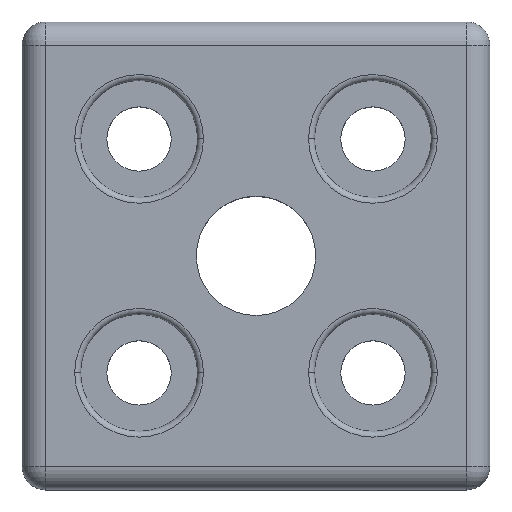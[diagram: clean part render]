
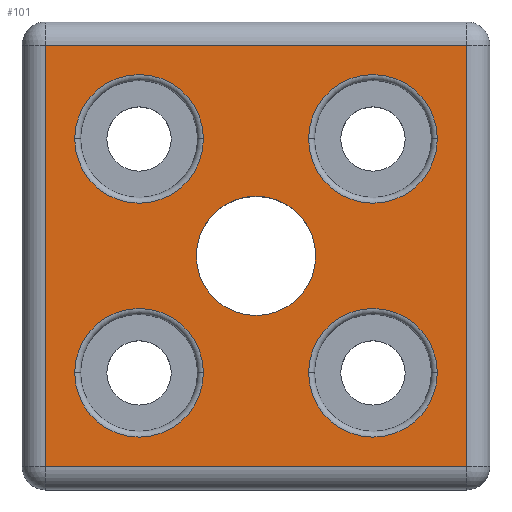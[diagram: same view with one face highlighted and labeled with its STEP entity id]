
A CAD part, top view. The second image highlights one B-rep face of the part: STEP entity #101.
In plain terms, the highlighted planar face has unit normal (0, 0, 1).
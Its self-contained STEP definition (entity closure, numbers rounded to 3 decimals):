
#101=ADVANCED_FACE('NONE',(#323,#324,#325,#326,#327,#328),#329,.T.);
#323=FACE_OUTER_BOUND('',#677,.T.);
#324=FACE_BOUND('',#678,.T.);
#325=FACE_BOUND('',#679,.T.);
#326=FACE_BOUND('',#680,.T.);
#327=FACE_BOUND('',#681,.T.);
#328=FACE_BOUND('',#682,.T.);
#329=PLANE('',#683);
#677=EDGE_LOOP('',(#1306,#1307,#1308,#1309));
#678=EDGE_LOOP('',(#1310,#1311));
#679=EDGE_LOOP('',(#1312,#1313));
#680=EDGE_LOOP('',(#1314,#1315));
#681=EDGE_LOOP('',(#1316,#1317));
#682=EDGE_LOOP('',(#1318,#1319));
#683=AXIS2_PLACEMENT_3D('',#1320,#1321,#1322);
#1306=ORIENTED_EDGE('',*,*,#2361,.T.);
#1307=ORIENTED_EDGE('',*,*,#2362,.T.);
#1308=ORIENTED_EDGE('',*,*,#2363,.T.);
#1309=ORIENTED_EDGE('',*,*,#2364,.T.);
#1310=ORIENTED_EDGE('',*,*,#2365,.F.);
#1311=ORIENTED_EDGE('',*,*,#2216,.F.);
#1312=ORIENTED_EDGE('',*,*,#2366,.T.);
#1313=ORIENTED_EDGE('',*,*,#2258,.T.);
#1314=ORIENTED_EDGE('',*,*,#2367,.T.);
#1315=ORIENTED_EDGE('',*,*,#2254,.T.);
#1316=ORIENTED_EDGE('',*,*,#2368,.T.);
#1317=ORIENTED_EDGE('',*,*,#2250,.T.);
#1318=ORIENTED_EDGE('',*,*,#2369,.T.);
#1319=ORIENTED_EDGE('',*,*,#2246,.T.);
#1320=CARTESIAN_POINT('',(-20.0,20.0,12.0));
#1321=DIRECTION('',(0.0,0.0,1.0));
#1322=DIRECTION('',(1.0,0.0,0.0));
#2216=EDGE_CURVE('NONE',#2635,#2637,#2638,.T.);
#2246=EDGE_CURVE('NONE',#2692,#2693,#2694,.T.);
#2250=EDGE_CURVE('NONE',#2700,#2701,#2702,.T.);
#2254=EDGE_CURVE('NONE',#2708,#2709,#2710,.T.);
#2258=EDGE_CURVE('NONE',#2716,#2717,#2718,.T.);
#2361=EDGE_CURVE('NONE',#2891,#2892,#2893,.T.);
#2362=EDGE_CURVE('NONE',#2892,#2894,#2895,.T.);
#2363=EDGE_CURVE('NONE',#2894,#2896,#2897,.T.);
#2364=EDGE_CURVE('NONE',#2896,#2891,#2898,.T.);
#2365=EDGE_CURVE('NONE',#2637,#2635,#2899,.T.);
#2366=EDGE_CURVE('NONE',#2717,#2716,#2900,.T.);
#2367=EDGE_CURVE('NONE',#2709,#2708,#2901,.T.);
#2368=EDGE_CURVE('NONE',#2701,#2700,#2902,.T.);
#2369=EDGE_CURVE('NONE',#2693,#2692,#2903,.T.);
#2635=VERTEX_POINT('NONE',#3249);
#2637=VERTEX_POINT('NONE',#3252);
#2638=CIRCLE('',#3253,5.1);
#2692=VERTEX_POINT('NONE',#3316);
#2693=VERTEX_POINT('NONE',#3317);
#2694=CIRCLE('',#3318,5.5);
#2700=VERTEX_POINT('NONE',#3324);
#2701=VERTEX_POINT('NONE',#3325);
#2702=CIRCLE('',#3326,5.5);
#2708=VERTEX_POINT('NONE',#3332);
#2709=VERTEX_POINT('NONE',#3333);
#2710=CIRCLE('',#3334,5.5);
#2716=VERTEX_POINT('NONE',#3340);
#2717=VERTEX_POINT('NONE',#3341);
#2718=CIRCLE('',#3342,5.5);
#2891=VERTEX_POINT('NONE',#3546);
#2892=VERTEX_POINT('NONE',#3547);
#2893=LINE('',#3548,#3549);
#2894=VERTEX_POINT('NONE',#3550);
#2895=LINE('',#3551,#3552);
#2896=VERTEX_POINT('NONE',#3553);
#2897=LINE('',#3554,#3555);
#2898=LINE('',#3556,#3557);
#2899=CIRCLE('',#3558,5.1);
#2900=CIRCLE('',#3559,5.5);
#2901=CIRCLE('',#3560,5.5);
#2902=CIRCLE('',#3561,5.5);
#2903=CIRCLE('',#3562,5.5);
#3249=CARTESIAN_POINT('',(-5.1,0.,12.0));
#3252=CARTESIAN_POINT('',(5.1,0.0,12.0));
#3253=AXIS2_PLACEMENT_3D('',#3950,#3951,#3952);
#3316=CARTESIAN_POINT('',(-15.5,-10.0,12.0));
#3317=CARTESIAN_POINT('',(-4.5,-10.0,12.0));
#3318=AXIS2_PLACEMENT_3D('',#4022,#4023,#4024);
#3324=CARTESIAN_POINT('',(4.5,-10.0,12.0));
#3325=CARTESIAN_POINT('',(15.5,-10.0,12.0));
#3326=AXIS2_PLACEMENT_3D('',#4034,#4035,#4036);
#3332=CARTESIAN_POINT('',(4.5,10.0,12.0));
#3333=CARTESIAN_POINT('',(15.5,10.0,12.0));
#3334=AXIS2_PLACEMENT_3D('',#4046,#4047,#4048);
#3340=CARTESIAN_POINT('',(-15.5,10.0,12.0));
#3341=CARTESIAN_POINT('',(-4.5,10.0,12.0));
#3342=AXIS2_PLACEMENT_3D('',#4058,#4059,#4060);
#3546=CARTESIAN_POINT('',(-18.0,-18.0,12.0));
#3547=CARTESIAN_POINT('',(18.0,-18.0,12.0));
#3548=CARTESIAN_POINT('',(18.0,-18.0,12.0));
#3549=VECTOR('',#4305,1000.0);
#3550=CARTESIAN_POINT('',(18.0,18.0,12.0));
#3551=CARTESIAN_POINT('',(18.0,18.0,12.0));
#3552=VECTOR('',#4306,1000.0);
#3553=CARTESIAN_POINT('',(-18.0,18.0,12.0));
#3554=CARTESIAN_POINT('',(-18.0,18.0,12.0));
#3555=VECTOR('',#4307,1000.0);
#3556=CARTESIAN_POINT('',(-18.0,-18.0,12.0));
#3557=VECTOR('',#4308,1000.0);
#3558=AXIS2_PLACEMENT_3D('',#4309,#4310,#4311);
#3559=AXIS2_PLACEMENT_3D('',#4312,#4313,#4314);
#3560=AXIS2_PLACEMENT_3D('',#4315,#4316,#4317);
#3561=AXIS2_PLACEMENT_3D('',#4318,#4319,#4320);
#3562=AXIS2_PLACEMENT_3D('',#4321,#4322,#4323);
#3950=CARTESIAN_POINT('',(0.0,0.0,12.0));
#3951=DIRECTION('',(0.0,-0.0,1.0));
#3952=DIRECTION('',(1.0,0.0,0.0));
#4022=CARTESIAN_POINT('',(-10.0,-10.0,12.0));
#4023=DIRECTION('',(0.0,0.0,-1.0));
#4024=DIRECTION('',(1.0,0.0,0.0));
#4034=CARTESIAN_POINT('',(10.0,-10.0,12.0));
#4035=DIRECTION('',(0.0,0.0,-1.0));
#4036=DIRECTION('',(1.0,0.0,0.0));
#4046=CARTESIAN_POINT('',(10.0,10.0,12.0));
#4047=DIRECTION('',(0.0,0.0,-1.0));
#4048=DIRECTION('',(1.0,0.0,0.0));
#4058=CARTESIAN_POINT('',(-10.0,10.0,12.0));
#4059=DIRECTION('',(0.0,0.0,-1.0));
#4060=DIRECTION('',(1.0,0.0,0.0));
#4305=DIRECTION('',(1.0,-0.0,0.0));
#4306=DIRECTION('',(0.0,1.0,-0.0));
#4307=DIRECTION('',(-1.0,0.0,0.0));
#4308=DIRECTION('',(0.0,-1.0,0.0));
#4309=CARTESIAN_POINT('',(0.0,0.0,12.0));
#4310=DIRECTION('',(0.0,-0.0,1.0));
#4311=DIRECTION('',(1.0,0.0,0.0));
#4312=CARTESIAN_POINT('',(-10.0,10.0,12.0));
#4313=DIRECTION('',(0.0,0.0,-1.0));
#4314=DIRECTION('',(1.0,0.0,0.0));
#4315=CARTESIAN_POINT('',(10.0,10.0,12.0));
#4316=DIRECTION('',(0.0,0.0,-1.0));
#4317=DIRECTION('',(1.0,0.0,0.0));
#4318=CARTESIAN_POINT('',(10.0,-10.0,12.0));
#4319=DIRECTION('',(0.0,0.0,-1.0));
#4320=DIRECTION('',(1.0,0.0,0.0));
#4321=CARTESIAN_POINT('',(-10.0,-10.0,12.0));
#4322=DIRECTION('',(0.0,0.0,-1.0));
#4323=DIRECTION('',(1.0,0.0,0.0));
